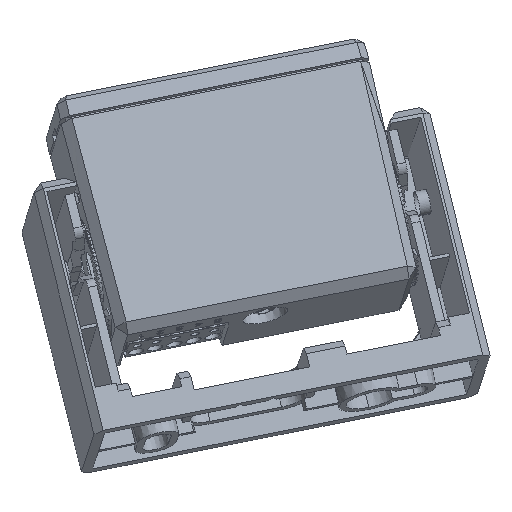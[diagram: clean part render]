
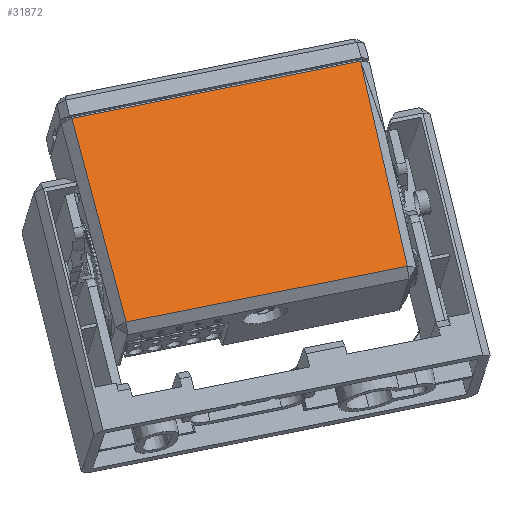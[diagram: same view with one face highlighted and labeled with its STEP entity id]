
A CAD part, front view. The second image highlights one B-rep face of the part: STEP entity #31872.
In plain terms, the highlighted planar face has unit normal (0.101, -0.949, 0.299).
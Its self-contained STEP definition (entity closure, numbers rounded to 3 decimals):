
#412 = CARTESIAN_POINT ( 'NONE',  ( -46.706, -63.016, -37.085 ) ) ;
#948 = CARTESIAN_POINT ( 'NONE',  ( -44.964, -62.72, -36.739 ) ) ;
#1526 = LINE ( 'NONE', #7219, #22855 ) ;
#2172 = CARTESIAN_POINT ( 'NONE',  ( 14.412, -64.611, -62.881 ) ) ;
#3249 = DIRECTION ( 'NONE',  ( 0.231, -0.27, -0.935 ) ) ;
#4610 = DIRECTION ( 'NONE',  ( -0.214, 0.273, 0.938 ) ) ;
#5149 = ORIENTED_EDGE ( 'NONE', *, *, #13234, .T. ) ;
#6561 = CARTESIAN_POINT ( 'NONE',  ( -44.964, -62.72, -36.739 ) ) ;
#7219 = CARTESIAN_POINT ( 'NONE',  ( -37.765, -73.452, -73.235 ) ) ;
#10031 = DIRECTION ( 'NONE',  ( 0.968, 0.164, 0.192 ) ) ;
#11289 = VECTOR ( 'NONE', #15752, 1000. ) ;
#11666 = VECTOR ( 'NONE', #23236, 1000. ) ;
#12173 = LINE ( 'NONE', #12962, #11289 ) ;
#12763 = ORIENTED_EDGE ( 'NONE', *, *, #33941, .T. ) ;
#12962 = CARTESIAN_POINT ( 'NONE',  ( -46.706, -63.016, -37.085 ) ) ;
#13234 = EDGE_CURVE ( 'NONE', #29576, #16224, #1526, .T. ) ;
#15236 = ORIENTED_EDGE ( 'NONE', *, *, #19702, .T. ) ;
#15365 = VERTEX_POINT ( 'NONE', #6561 ) ;
#15752 = DIRECTION ( 'NONE',  ( -0.968, -0.164, -0.192 ) ) ;
#16224 = VERTEX_POINT ( 'NONE', #2172 ) ;
#18440 = ORIENTED_EDGE ( 'NONE', *, *, #31674, .T. ) ;
#19078 = LINE ( 'NONE', #948, #11666 ) ;
#19632 = CARTESIAN_POINT ( 'NONE',  ( -35.37, -73.046, -72.759 ) ) ;
#19702 = EDGE_CURVE ( 'NONE', #15365, #29576, #19078, .T. ) ;
#19906 = DIRECTION ( 'NONE',  ( 0.101, -0.949, 0.299 ) ) ;
#20672 = VERTEX_POINT ( 'NONE', #29326 ) ;
#21165 = CARTESIAN_POINT ( 'NONE',  ( 14.412, -64.611, -62.881 ) ) ;
#22855 = VECTOR ( 'NONE', #10031, 1000. ) ;
#23236 = DIRECTION ( 'NONE',  ( 0.248, -0.267, -0.931 ) ) ;
#25254 = PLANE ( 'NONE',  #26594 ) ;
#26594 = AXIS2_PLACEMENT_3D ( 'NONE', #412, #19906, #3249 ) ;
#26751 = FACE_OUTER_BOUND ( 'NONE', #28692, .T. ) ;
#28692 = EDGE_LOOP ( 'NONE', ( #12763, #15236, #5149, #18440 ) ) ;
#29326 = CARTESIAN_POINT ( 'NONE',  ( 6.124, -54.065, -26.601 ) ) ;
#29576 = VERTEX_POINT ( 'NONE', #19632 ) ;
#30635 = VECTOR ( 'NONE', #4610, 1000. ) ;
#31486 = LINE ( 'NONE', #21165, #30635 ) ;
#31674 = EDGE_CURVE ( 'NONE', #16224, #20672, #31486, .T. ) ;
#31872 = ADVANCED_FACE ( 'NONE', ( #26751 ), #25254, .T. ) ;
#33941 = EDGE_CURVE ( 'NONE', #20672, #15365, #12173, .T. ) ;
